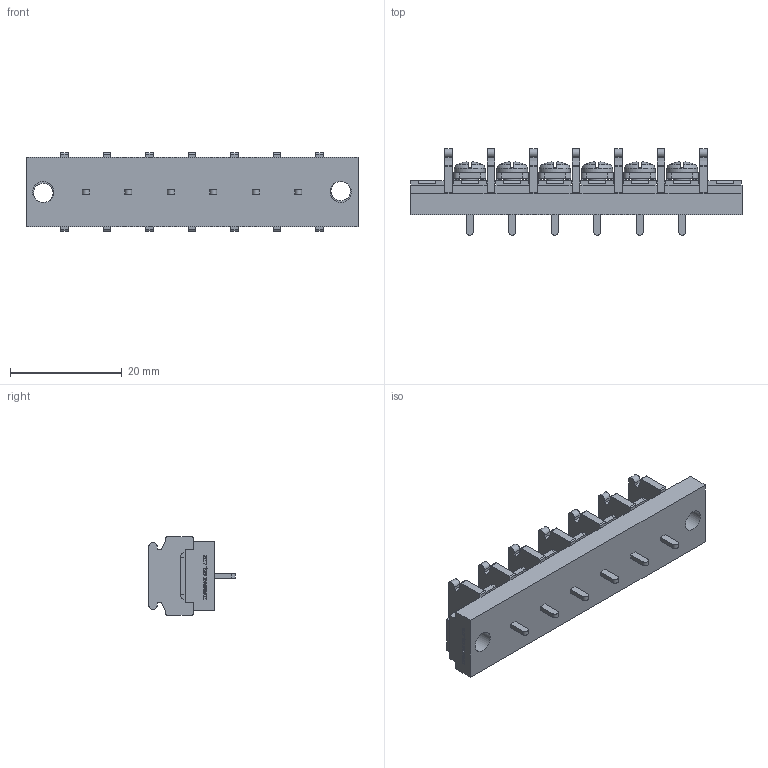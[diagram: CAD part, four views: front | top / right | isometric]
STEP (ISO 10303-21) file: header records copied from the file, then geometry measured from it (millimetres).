
FILE_DESCRIPTION(/* description */ ('Alibre Inc.'),/* implementation_level */ '2;1');
FILE_NAME(/* name */ 'export0',/* time_stamp */ '2015-10-23T19:18:50+09:00',/* author */ (''),/* organization */ (''),/* preprocessor_version */ 'ST-DEVELOPER v14',/* originating_system */ 'Alibre',/* authorisation */ '');
FILE_SCHEMA (('CONFIG_CONTROL_DESIGN'));
Length unit declared in the file: centimetre
Products named in the file (1): ID_1
Bounding box: 59.54 x 15.5 x 14 mm (x, y, z)
Volume: 5211.8 mm3; surface area: 4969.7 mm2
Topology: 1 solids, 1 shells, 1112 faces, 3040 edges, 1996 vertices
Faces by surface type: plane 856, cylinder 104, bspline 104, cone 24, torus 12, sphere 12
Full cylindrical faces by diameter (mm): 3 x6, 3.5 x2, 3.8 x2, 5.5 x6
Entity records: 33461 total; most frequent: CARTESIAN_POINT 7253, ORIENTED_EDGE 5992, DIRECTION 4118, EDGE_CURVE 2996, VECTOR 2216, LINE 2216, VERTEX_POINT 1980, AXIS2_PLACEMENT_3D 1353
